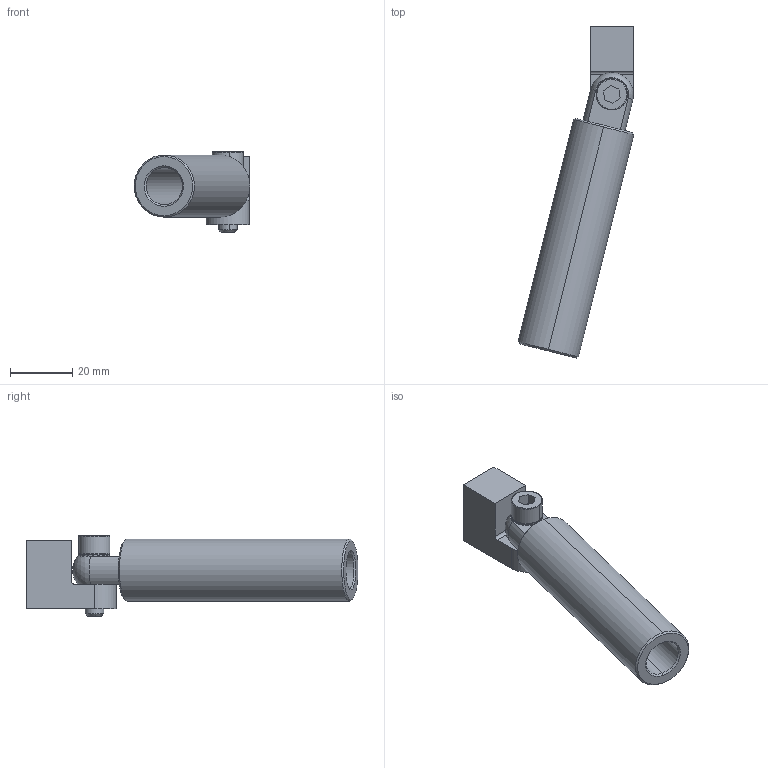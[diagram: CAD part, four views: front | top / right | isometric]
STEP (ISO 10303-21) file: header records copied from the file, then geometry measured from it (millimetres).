
FILE_DESCRIPTION (( 'STEP AP214' ), '1' );
FILE_NAME ('SEAV-G1820L78.STEP', '2019-11-11T05:19:42', ( '微软用户' ), ( '微软中国' ), 'SwSTEP 2.0', 'SolidWorks 2016', '' );
FILE_SCHEMA (( 'AUTOMOTIVE_DESIGN' ));
Length unit declared in the file: millimetre
Products named in the file (1): SEAV-G1820L78
Bounding box: 37.23 x 106.77 x 26 mm (x, y, z)
Surface area: 12457.4 mm2 (no closed solid volume)
Topology: 0 solids, 5 shells, 212 faces, 599 edges, 392 vertices
Faces by surface type: plane 165, cylinder 25, cone 18, bspline 2, sphere 2
Entity records: 9538 total; most frequent: CARTESIAN_POINT 1524, DIRECTION 1215, ORIENTED_EDGE 1174, EDGE_CURVE 589, AXIS2_PLACEMENT_3D 423, VERTEX_POINT 388, VECTOR 369, LINE 369
